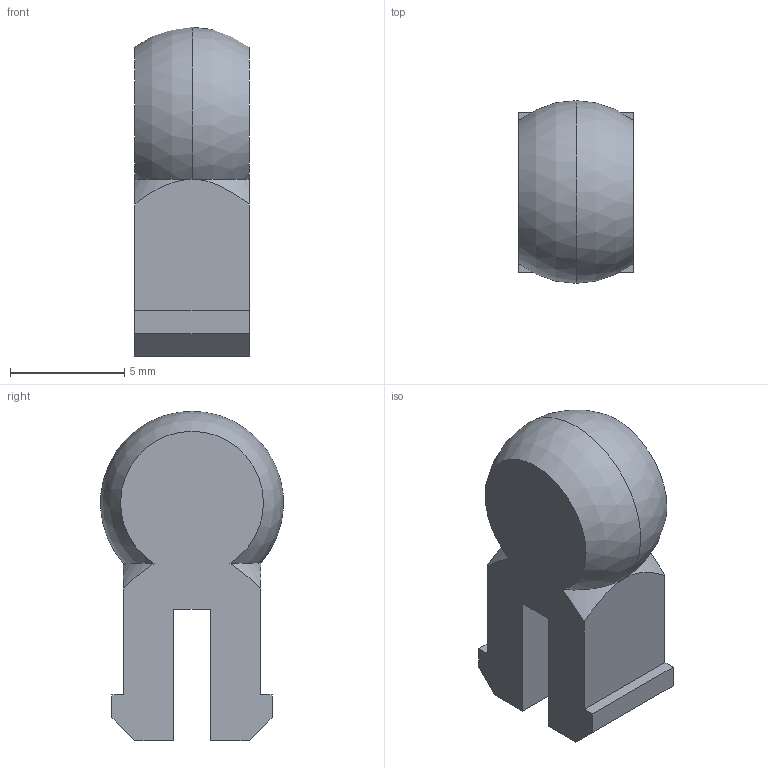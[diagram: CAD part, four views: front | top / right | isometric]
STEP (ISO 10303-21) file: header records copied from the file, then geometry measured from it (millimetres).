
FILE_DESCRIPTION (( 'STEP AP214' ), '1' );
FILE_NAME ('B1-pin-pelvis.step', '2023-08-03T13:47:59', ( '' ), ( '' ), 'SwSTEP 2.0', 'SolidWorks 2020', '' );
FILE_SCHEMA (( 'AUTOMOTIVE_DESIGN' ));
Length unit declared in the file: millimetre
Products named in the file (1): B1-pin-pelvis
Bounding box: 5 x 7.98 x 14.4 mm (x, y, z)
Volume: 388.9 mm3; surface area: 399.4 mm2
Topology: 1 solids, 1 shells, 21 faces, 54 edges, 35 vertices
Faces by surface type: plane 15, cone 4, sphere 2
Entity records: 706 total; most frequent: CARTESIAN_POINT 167, ORIENTED_EDGE 108, DIRECTION 98, EDGE_CURVE 54, VECTOR 38, LINE 38, VERTEX_POINT 35, AXIS2_PLACEMENT_3D 30
